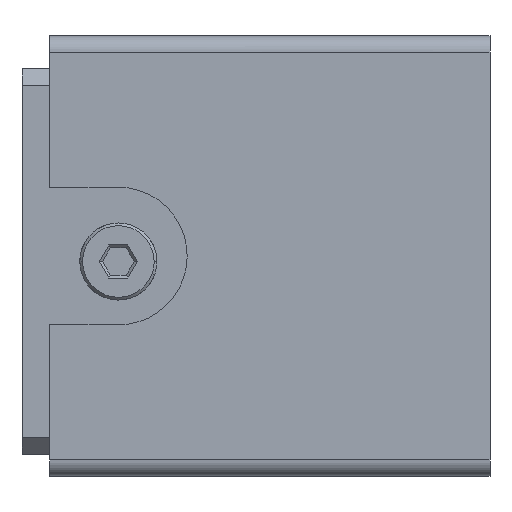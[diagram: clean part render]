
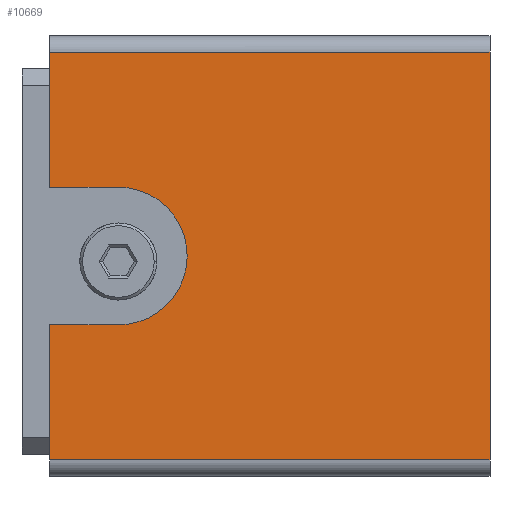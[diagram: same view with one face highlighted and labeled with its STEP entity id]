
A CAD part, front view. The second image highlights one B-rep face of the part: STEP entity #10669.
In plain terms, the highlighted planar face has unit normal (0, -1, 0).
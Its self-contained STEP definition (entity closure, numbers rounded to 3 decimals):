
#9381=CARTESIAN_POINT('Vertex',(-30.,-6.,23.5)) ;
#9485=CARTESIAN_POINT('Vertex',(-30.,-6.,-1.)) ;
#9488=CARTESIAN_POINT('Line Origine',(-30.,-6.,11.25)) ;
#9561=CARTESIAN_POINT('Vertex',(50.,-6.,73.)) ;
#9564=CARTESIAN_POINT('Line Origine',(50.,-6.,36.)) ;
#9568=CARTESIAN_POINT('Vertex',(50.,-6.,-1.)) ;
#10317=CARTESIAN_POINT('Line Origine',(-23.75,-6.,23.5)) ;
#10321=CARTESIAN_POINT('Vertex',(-17.5,-6.,23.5)) ;
#10595=CARTESIAN_POINT('Line Origine',(10.,-6.,-1.)) ;
#10607=CARTESIAN_POINT('Axis2P3D Location',(-30.,-6.,-4.)) ;
#10612=CARTESIAN_POINT('Line Origine',(-23.75,-6.,48.5)) ;
#10616=CARTESIAN_POINT('Vertex',(-17.5,-6.,48.5)) ;
#10618=CARTESIAN_POINT('Vertex',(-30.,-6.,48.5)) ;
#10622=CARTESIAN_POINT('Control Point',(-17.5,-6.,48.5)) ;
#10623=CARTESIAN_POINT('Control Point',(-16.288,-6.,48.5)) ;
#10624=CARTESIAN_POINT('Control Point',(-15.075,-6.,48.353)) ;
#10625=CARTESIAN_POINT('Control Point',(-13.886,-6.,48.059)) ;
#10626=CARTESIAN_POINT('Control Point',(-11.604,-6.,47.189)) ;
#10627=CARTESIAN_POINT('Control Point',(-9.596,-6.,45.798)) ;
#10628=CARTESIAN_POINT('Control Point',(-8.681,-6.,44.984)) ;
#10629=CARTESIAN_POINT('Control Point',(-7.068,-6.,43.15)) ;
#10630=CARTESIAN_POINT('Control Point',(-5.94,-6.,40.984)) ;
#10631=CARTESIAN_POINT('Control Point',(-5.51,-6.,39.837)) ;
#10632=CARTESIAN_POINT('Control Point',(-4.938,-6.,37.462)) ;
#10633=CARTESIAN_POINT('Control Point',(-4.949,-6.,35.02)) ;
#10634=CARTESIAN_POINT('Control Point',(-5.104,-6.,33.805)) ;
#10635=CARTESIAN_POINT('Control Point',(-5.705,-6.,31.437)) ;
#10636=CARTESIAN_POINT('Control Point',(-6.854,-6.,29.282)) ;
#10637=CARTESIAN_POINT('Control Point',(-7.557,-6.,28.279)) ;
#10638=CARTESIAN_POINT('Control Point',(-9.192,-6.,26.465)) ;
#10639=CARTESIAN_POINT('Control Point',(-11.213,-6.,25.093)) ;
#10640=CARTESIAN_POINT('Control Point',(-12.303,-6.,24.534)) ;
#10641=CARTESIAN_POINT('Control Point',(-13.997,-6.,23.911)) ;
#10642=CARTESIAN_POINT('Control Point',(-15.764,-6.,23.601)) ;
#10643=CARTESIAN_POINT('Control Point',(-16.341,-6.,23.534)) ;
#10644=CARTESIAN_POINT('Control Point',(-16.921,-6.,23.5)) ;
#10645=CARTESIAN_POINT('Control Point',(-17.5,-6.,23.5)) ;
#10647=CARTESIAN_POINT('Line Origine',(10.,-6.,73.)) ;
#10651=CARTESIAN_POINT('Vertex',(-30.,-6.,73.)) ;
#10654=CARTESIAN_POINT('Line Origine',(-30.,-6.,60.75)) ;
#9489=DIRECTION('Vector Direction',(0.,0.,1.)) ;
#9565=DIRECTION('Vector Direction',(0.,0.,1.)) ;
#10318=DIRECTION('Vector Direction',(1.,0.,0.)) ;
#10596=DIRECTION('Vector Direction',(1.,0.,0.)) ;
#10608=DIRECTION('Axis2P3D Direction',(0.,1.,0.)) ;
#10609=DIRECTION('Axis2P3D XDirection',(0.,0.,1.)) ;
#10613=DIRECTION('Vector Direction',(1.,0.,0.)) ;
#10648=DIRECTION('Vector Direction',(1.,0.,0.)) ;
#10655=DIRECTION('Vector Direction',(0.,0.,1.)) ;
#10610=AXIS2_PLACEMENT_3D('Plane Axis2P3D',#10607,#10608,#10609) ;
#10660=ORIENTED_EDGE('',*,*,#10620,.F.) ;
#10661=ORIENTED_EDGE('',*,*,#10646,.F.) ;
#10662=ORIENTED_EDGE('',*,*,#10323,.F.) ;
#10663=ORIENTED_EDGE('',*,*,#9492,.T.) ;
#10664=ORIENTED_EDGE('',*,*,#10599,.T.) ;
#10665=ORIENTED_EDGE('',*,*,#9570,.F.) ;
#10666=ORIENTED_EDGE('',*,*,#10653,.F.) ;
#10667=ORIENTED_EDGE('',*,*,#10658,.T.) ;
#9490=VECTOR('Line Direction',#9489,1.) ;
#9566=VECTOR('Line Direction',#9565,1.) ;
#10319=VECTOR('Line Direction',#10318,1.) ;
#10597=VECTOR('Line Direction',#10596,1.) ;
#10614=VECTOR('Line Direction',#10613,1.) ;
#10649=VECTOR('Line Direction',#10648,1.) ;
#10656=VECTOR('Line Direction',#10655,1.) ;
#10669=ADVANCED_FACE('',(#10668),#10611,.F.) ;
#10621=B_SPLINE_CURVE_WITH_KNOTS('',5,(#10622,#10623,#10624,#10625,#10626,#10627,#10628,#10629,#10630,#10631,#10632,#10633,#10634,#10635,#10636,#10637,#10638,#10639,#10640,#10641,#10642,#10643,#10644,#10645),.UNSPECIFIED.,.F.,.U.,(6,3,3,3,3,3,3,6),(0.,8.593,17.186,25.778,34.371,42.964,51.557,55.664),.UNSPECIFIED.) ;
#9492=EDGE_CURVE('',#9382,#9486,#9491,.F.) ;
#9570=EDGE_CURVE('',#9562,#9569,#9567,.F.) ;
#10323=EDGE_CURVE('',#9382,#10322,#10320,.T.) ;
#10599=EDGE_CURVE('',#9486,#9569,#10598,.T.) ;
#10620=EDGE_CURVE('',#10617,#10619,#10615,.F.) ;
#10646=EDGE_CURVE('',#10322,#10617,#10621,.F.) ;
#10653=EDGE_CURVE('',#10652,#9562,#10650,.T.) ;
#10658=EDGE_CURVE('',#10652,#10619,#10657,.F.) ;
#10659=EDGE_LOOP('',(#10660,#10661,#10662,#10663,#10664,#10665,#10666,#10667)) ;
#10668=FACE_OUTER_BOUND('',#10659,.T.) ;
#9491=LINE('Line',#9488,#9490) ;
#9567=LINE('Line',#9564,#9566) ;
#10320=LINE('Line',#10317,#10319) ;
#10598=LINE('Line',#10595,#10597) ;
#10615=LINE('Line',#10612,#10614) ;
#10650=LINE('Line',#10647,#10649) ;
#10657=LINE('Line',#10654,#10656) ;
#10611=PLANE('Plane',#10610) ;
#9382=VERTEX_POINT('',#9381) ;
#9486=VERTEX_POINT('',#9485) ;
#9562=VERTEX_POINT('',#9561) ;
#9569=VERTEX_POINT('',#9568) ;
#10322=VERTEX_POINT('',#10321) ;
#10617=VERTEX_POINT('',#10616) ;
#10619=VERTEX_POINT('',#10618) ;
#10652=VERTEX_POINT('',#10651) ;
